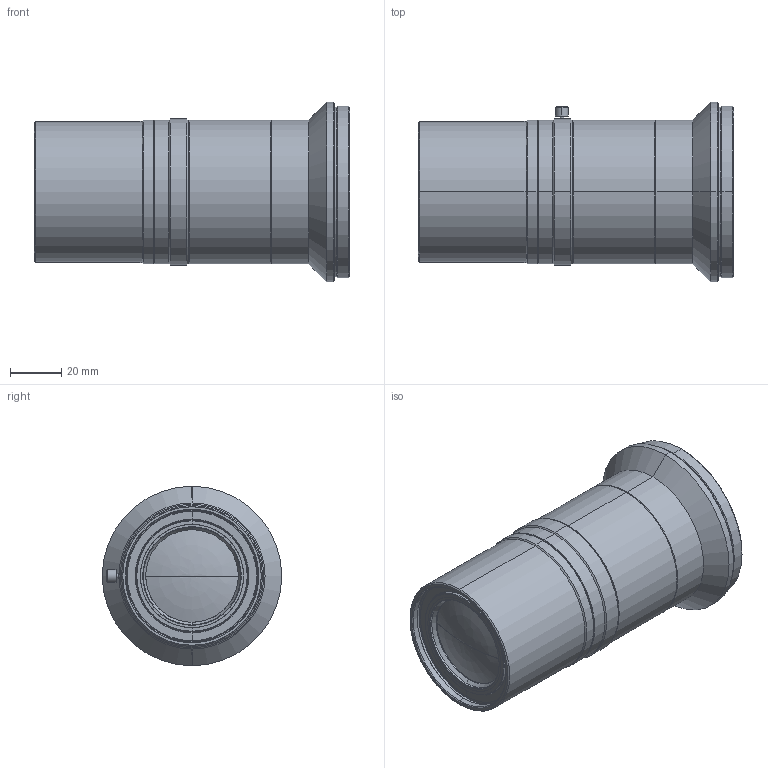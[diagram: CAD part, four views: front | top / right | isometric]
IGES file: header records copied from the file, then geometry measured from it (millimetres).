
Start section: SolidWorks IGES file using analytic representation for surfaces
Global section: file name: C:\Users\sugita_vst\Desktop\AutoCAD図面DATA\・L12040-20,25     (3Dモデル) ▲　途中\VS-L12040-2.IGS; native system: SolidWorks 2018; preprocessor: SolidWorks 2018; author: sugita_vst; date: 180921.161258; units: millimetre
Bounding box: 123 x 70 x 70 mm (x, y, z)
Surface area: 36212.9 mm2 (no closed solid volume)
Topology: 0 solids, 0 shells, 126 faces, 2118 edges, 2116 vertices
Faces by surface type: revolution 112, bspline 14
